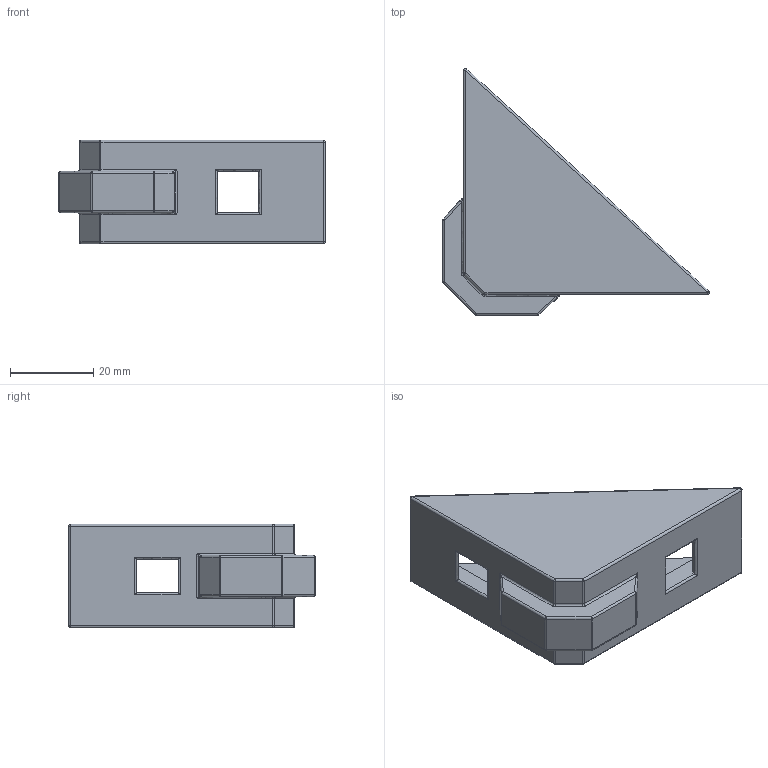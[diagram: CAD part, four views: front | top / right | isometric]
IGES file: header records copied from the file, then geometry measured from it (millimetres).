
Start section: SolidWorks IGES file using analytic representation for surfaces
Global section: file name: C:\Documents and Settings\URETIM3\Desktop\yeni katalog tolgay düzenli\C kataloðu\zamak köþe baðlantý 30x30\766 011 004.IGS; native system: SolidWorks 2006 by SolidWorks Corporation; preprocessor: SolidWorks 2006 by SolidWorks Corporation; author: URETIM3; date: 060912.113004; units: millimetre
Bounding box: 64.21 x 59.36 x 25 mm (x, y, z)
Surface area: 11195.9 mm2 (no closed solid volume)
Topology: 0 solids, 0 shells, 99 faces, 700 edges, 682 vertices
Faces by surface type: revolution 64, bspline 35
